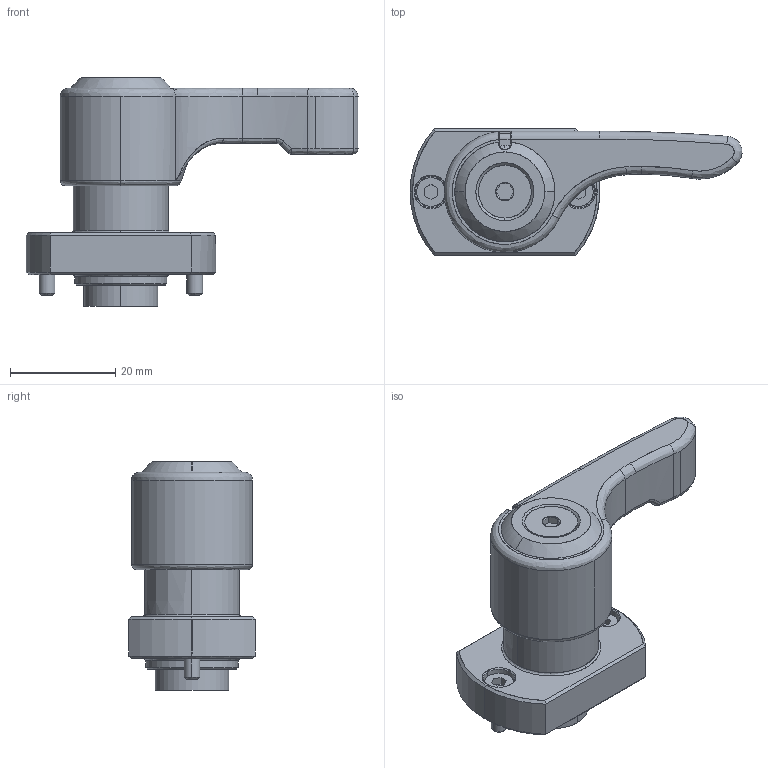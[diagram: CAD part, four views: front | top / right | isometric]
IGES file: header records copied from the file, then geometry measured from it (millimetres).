
Start section: SolidWorks IGES file using analytic representation for surfaces
Global section: file name: Y:\5.更新分\2023年対応\0405_諸々微修正分\QCPS1036-6-BK-D\qcps1036-6-bk-d.IGS; native system: SolidWorks 2021; preprocessor: SolidWorks 2021; author: ImaoCorp; date: 230407.105543; units: millimetre
Bounding box: 62.99 x 24 x 43.4 mm (x, y, z)
Surface area: 11628.7 mm2 (no closed solid volume)
Topology: 0 solids, 0 shells, 378 faces, 4156 edges, 4148 vertices
Faces by surface type: bspline 211, revolution 167
